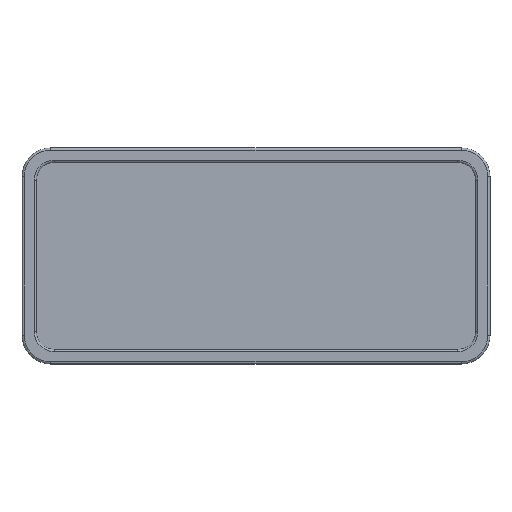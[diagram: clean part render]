
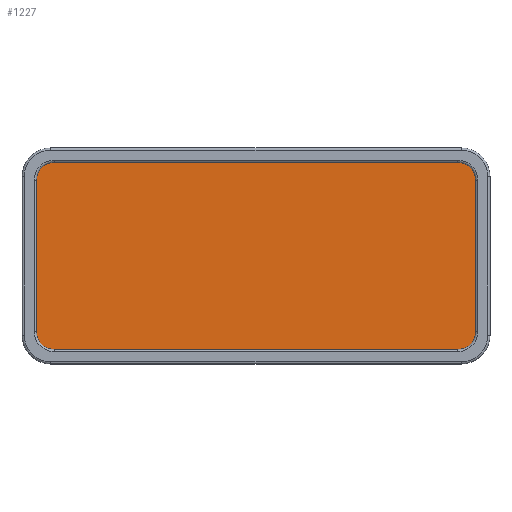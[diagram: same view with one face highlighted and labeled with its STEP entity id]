
A CAD part, top view. The second image highlights one B-rep face of the part: STEP entity #1227.
In plain terms, the highlighted planar face has unit normal (0, 0, 1).
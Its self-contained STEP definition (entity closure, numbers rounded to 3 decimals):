
#54 = EDGE_CURVE ( 'NONE', #279, #293, #397, .T. ) ;
#57 = EDGE_CURVE ( 'NONE', #305, #279, #405, .T. ) ;
#60 = EDGE_CURVE ( 'NONE', #296, #305, #546, .T. ) ;
#63 = EDGE_CURVE ( 'NONE', #307, #296, #551, .T. ) ;
#66 = EDGE_CURVE ( 'NONE', #302, #307, #558, .T. ) ;
#69 = EDGE_CURVE ( 'NONE', #271, #302, #562, .T. ) ;
#72 = EDGE_CURVE ( 'NONE', #272, #271, #568, .T. ) ;
#74 = EDGE_CURVE ( 'NONE', #293, #272, #570, .T. ) ;
#145 = EDGE_LOOP ( 'NONE', ( #898, #897, #896, #895, #894, #893, #892, #891 ) ) ;
#271 = VERTEX_POINT ( 'NONE', #1604 ) ;
#272 = VERTEX_POINT ( 'NONE', #687 ) ;
#279 = VERTEX_POINT ( 'NONE', #692 ) ;
#293 = VERTEX_POINT ( 'NONE', #706 ) ;
#296 = VERTEX_POINT ( 'NONE', #709 ) ;
#302 = VERTEX_POINT ( 'NONE', #715 ) ;
#305 = VERTEX_POINT ( 'NONE', #718 ) ;
#307 = VERTEX_POINT ( 'NONE', #720 ) ;
#397 = CIRCLE ( 'NONE', #1098, 2.5 ) ;
#405 = LINE ( 'NONE', #1712, #408 ) ;
#408 = VECTOR ( 'NONE', #1710, 1000. ) ;
#546 = CIRCLE ( 'NONE', #1100, 2.5 ) ;
#551 = LINE ( 'NONE', #1688, #555 ) ;
#555 = VECTOR ( 'NONE', #1687, 1000. ) ;
#558 = CIRCLE ( 'NONE', #1102, 2.5 ) ;
#562 = LINE ( 'NONE', #1670, #565 ) ;
#565 = VECTOR ( 'NONE', #1669, 1000. ) ;
#568 = CIRCLE ( 'NONE', #1104, 2.5 ) ;
#570 = LINE ( 'NONE', #1467, #573 ) ;
#573 = VECTOR ( 'NONE', #1485, 1000. ) ;
#655 = FACE_OUTER_BOUND ( 'NONE', #145, .T. ) ;
#687 = CARTESIAN_POINT ( 'NONE',  ( 60.5, 2., 10. ) ) ;
#692 = CARTESIAN_POINT ( 'NONE',  ( 2., 4.5, 10. ) ) ;
#706 = CARTESIAN_POINT ( 'NONE',  ( 4.5, 2., 10. ) ) ;
#709 = CARTESIAN_POINT ( 'NONE',  ( 4.5, 28., 10. ) ) ;
#715 = CARTESIAN_POINT ( 'NONE',  ( 63., 25.5, 10. ) ) ;
#718 = CARTESIAN_POINT ( 'NONE',  ( 2., 25.5, 10. ) ) ;
#720 = CARTESIAN_POINT ( 'NONE',  ( 60.5, 28., 10. ) ) ;
#823 = PLANE ( 'NONE',  #1160 ) ;
#891 = ORIENTED_EDGE ( 'NONE', *, *, #57, .T. ) ;
#892 = ORIENTED_EDGE ( 'NONE', *, *, #60, .T. ) ;
#893 = ORIENTED_EDGE ( 'NONE', *, *, #63, .T. ) ;
#894 = ORIENTED_EDGE ( 'NONE', *, *, #66, .T. ) ;
#895 = ORIENTED_EDGE ( 'NONE', *, *, #69, .T. ) ;
#896 = ORIENTED_EDGE ( 'NONE', *, *, #72, .T. ) ;
#897 = ORIENTED_EDGE ( 'NONE', *, *, #74, .T. ) ;
#898 = ORIENTED_EDGE ( 'NONE', *, *, #54, .T. ) ;
#1098 = AXIS2_PLACEMENT_3D ( 'NONE', #1716, #1715, #1714 ) ;
#1100 = AXIS2_PLACEMENT_3D ( 'NONE', #1698, #1697, #1696 ) ;
#1102 = AXIS2_PLACEMENT_3D ( 'NONE', #1674, #1673, #1672 ) ;
#1104 = AXIS2_PLACEMENT_3D ( 'NONE', #1497, #1493, #1492 ) ;
#1160 = AXIS2_PLACEMENT_3D ( 'NONE', #1251, #1257, #1258 ) ;
#1227 = ADVANCED_FACE ( 'NONE', ( #655 ), #823, .T. ) ;
#1251 = CARTESIAN_POINT ( 'NONE',  ( 4.5, 4.5, 10. ) ) ;
#1257 = DIRECTION ( 'NONE',  ( 0., 0., 1. ) ) ;
#1258 = DIRECTION ( 'NONE',  ( 1., 0., 0. ) ) ;
#1467 = CARTESIAN_POINT ( 'NONE',  ( 4.5, 2., 10. ) ) ;
#1485 = DIRECTION ( 'NONE',  ( 1., 0., 0. ) ) ;
#1492 = DIRECTION ( 'NONE',  ( 1., 0., 0. ) ) ;
#1493 = DIRECTION ( 'NONE',  ( 0., 0., 1. ) ) ;
#1497 = CARTESIAN_POINT ( 'NONE',  ( 60.5, 4.5, 10. ) ) ;
#1604 = CARTESIAN_POINT ( 'NONE',  ( 63., 4.5, 10. ) ) ;
#1669 = DIRECTION ( 'NONE',  ( 0., 1., 0. ) ) ;
#1670 = CARTESIAN_POINT ( 'NONE',  ( 63., 25.5, 10. ) ) ;
#1672 = DIRECTION ( 'NONE',  ( -1., 0., 0. ) ) ;
#1673 = DIRECTION ( 'NONE',  ( 0., 0., 1. ) ) ;
#1674 = CARTESIAN_POINT ( 'NONE',  ( 60.5, 25.5, 10. ) ) ;
#1687 = DIRECTION ( 'NONE',  ( -1., 0., 0. ) ) ;
#1688 = CARTESIAN_POINT ( 'NONE',  ( 4.5, 28., 10. ) ) ;
#1696 = DIRECTION ( 'NONE',  ( 1., 0., 0. ) ) ;
#1697 = DIRECTION ( 'NONE',  ( 0., 0., 1. ) ) ;
#1698 = CARTESIAN_POINT ( 'NONE',  ( 4.5, 25.5, 10. ) ) ;
#1710 = DIRECTION ( 'NONE',  ( 0., -1., 0. ) ) ;
#1712 = CARTESIAN_POINT ( 'NONE',  ( 2., 25.5, 10. ) ) ;
#1714 = DIRECTION ( 'NONE',  ( 1., 0., 0. ) ) ;
#1715 = DIRECTION ( 'NONE',  ( 0., 0., 1. ) ) ;
#1716 = CARTESIAN_POINT ( 'NONE',  ( 4.5, 4.5, 10. ) ) ;
